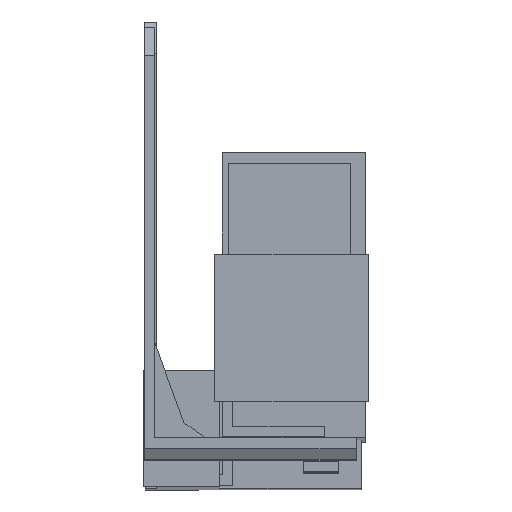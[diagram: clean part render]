
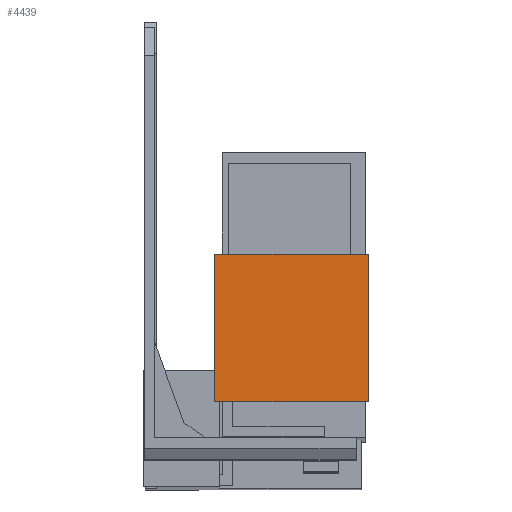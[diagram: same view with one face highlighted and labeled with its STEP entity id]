
A CAD part, front view. The second image highlights one B-rep face of the part: STEP entity #4439.
In plain terms, the highlighted planar face has unit normal (0, -1, 0.003).
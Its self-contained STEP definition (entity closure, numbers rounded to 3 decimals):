
#114 = EDGE_CURVE ( 'NONE', #3070, #3066, #4220, .T. ) ;
#117 = EDGE_CURVE ( 'NONE', #3067, #3066, #4210, .T. ) ;
#342 = EDGE_CURVE ( 'NONE', #3067, #3063, #660, .T. ) ;
#395 = EDGE_CURVE ( 'NONE', #3063, #3070, #1035, .T. ) ;
#660 = LINE ( 'NONE', #3785, #663 ) ;
#663 = VECTOR ( 'NONE', #3786, 1000. ) ;
#862 = FACE_OUTER_BOUND ( 'NONE', #4880, .T. ) ;
#1030 = VECTOR ( 'NONE', #3890, 1000. ) ;
#1035 = LINE ( 'NONE', #3879, #1030 ) ;
#2076 = AXIS2_PLACEMENT_3D ( 'NONE', #2658, #2664, #2665 ) ;
#2342 = CARTESIAN_POINT ( 'NONE',  ( 10.05, -28.952, -19.322 ) ) ;
#2345 = CARTESIAN_POINT ( 'NONE',  ( 31.95, -29.009, -40.322 ) ) ;
#2346 = CARTESIAN_POINT ( 'NONE',  ( 10.05, -29.009, -40.322 ) ) ;
#2349 = CARTESIAN_POINT ( 'NONE',  ( 31.95, -28.952, -19.322 ) ) ;
#2655 = PLANE ( 'NONE',  #2076 ) ;
#2658 = CARTESIAN_POINT ( 'NONE',  ( 9.3, -29.009, -40.322 ) ) ;
#2664 = DIRECTION ( 'NONE',  ( 0., -1., 0.003 ) ) ;
#2665 = DIRECTION ( 'NONE',  ( -1., 0., 0. ) ) ;
#3063 = VERTEX_POINT ( 'NONE', #2342 ) ;
#3066 = VERTEX_POINT ( 'NONE', #2345 ) ;
#3067 = VERTEX_POINT ( 'NONE', #2346 ) ;
#3070 = VERTEX_POINT ( 'NONE', #2349 ) ;
#3302 = CARTESIAN_POINT ( 'NONE',  ( 31.95, -28.952, -19.322 ) ) ;
#3303 = CARTESIAN_POINT ( 'NONE',  ( 9.3, -29.009, -40.322 ) ) ;
#3306 = DIRECTION ( 'NONE',  ( 0., -0.003, -1. ) ) ;
#3312 = DIRECTION ( 'NONE',  ( 1., 0., 0. ) ) ;
#3785 = CARTESIAN_POINT ( 'NONE',  ( 10.05, -29.009, -40.322 ) ) ;
#3786 = DIRECTION ( 'NONE',  ( 0., 0.003, 1. ) ) ;
#3879 = CARTESIAN_POINT ( 'NONE',  ( 9.3, -28.952, -19.322 ) ) ;
#3890 = DIRECTION ( 'NONE',  ( 1., 0., 0. ) ) ;
#4210 = LINE ( 'NONE', #3303, #4217 ) ;
#4217 = VECTOR ( 'NONE', #3312, 1000. ) ;
#4218 = VECTOR ( 'NONE', #3306, 1000. ) ;
#4220 = LINE ( 'NONE', #3302, #4218 ) ;
#4439 = ADVANCED_FACE ( 'NONE', ( #862 ), #2655, .T. ) ;
#4771 = ORIENTED_EDGE ( 'NONE', *, *, #395, .F. ) ;
#4772 = ORIENTED_EDGE ( 'NONE', *, *, #342, .F. ) ;
#4773 = ORIENTED_EDGE ( 'NONE', *, *, #117, .T. ) ;
#4774 = ORIENTED_EDGE ( 'NONE', *, *, #114, .F. ) ;
#4880 = EDGE_LOOP ( 'NONE', ( #4771, #4772, #4773, #4774 ) ) ;
